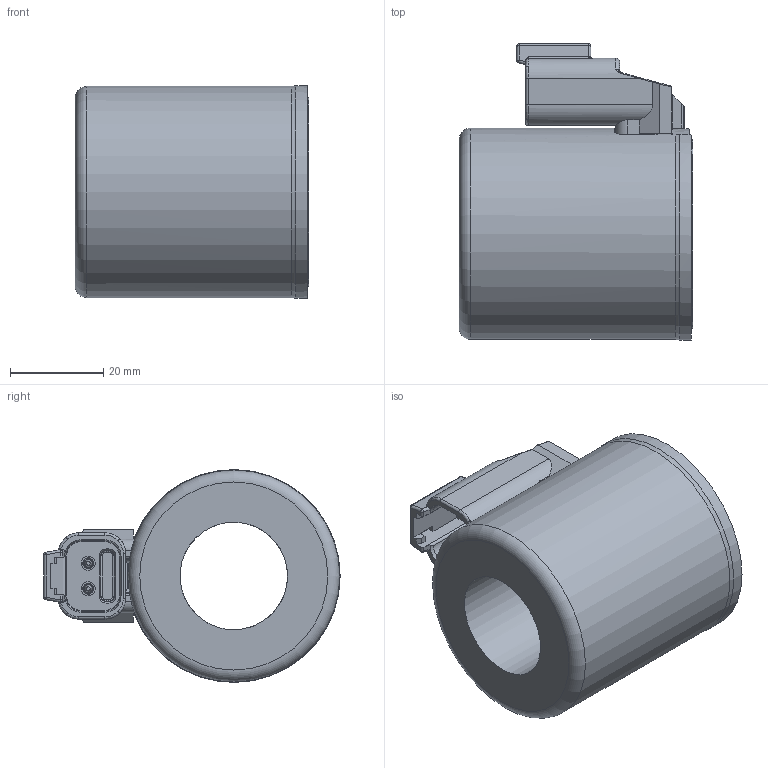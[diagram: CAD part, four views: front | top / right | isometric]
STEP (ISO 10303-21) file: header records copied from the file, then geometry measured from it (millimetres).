
FILE_DESCRIPTION (( 'STEP AP214' ), '1' );
FILE_NAME ('WGE45_23x50.STEP', '2018-03-09T09:02:26', ( '' ), ( '' ), 'SwSTEP 2.0', 'SolidWorks 2016', '' );
FILE_SCHEMA (( 'AUTOMOTIVE_DESIGN' ));
Length unit declared in the file: millimetre
Products named in the file (1): WGE45_23x50
Bounding box: 50.1 x 63.5 x 45.6 mm (x, y, z)
Volume: 63776.5 mm3; surface area: 19388.5 mm2
Topology: 1 solids, 1 shells, 283 faces, 729 edges, 444 vertices
Faces by surface type: plane 116, cylinder 74, bspline 48, torus 17, cone 15, sphere 13
Full cylindrical faces by diameter (mm): 1.57 x2, 1.6 x2, 2.75 x1, 3 x2, 23.05 x1, 40.55 x1, 45.3 x1
Entity records: 14434 total; most frequent: CARTESIAN_POINT 7921, ORIENTED_EDGE 1380, DIRECTION 1210, EDGE_CURVE 690, VERTEX_POINT 434, AXIS2_PLACEMENT_3D 432, VECTOR 346, LINE 346
